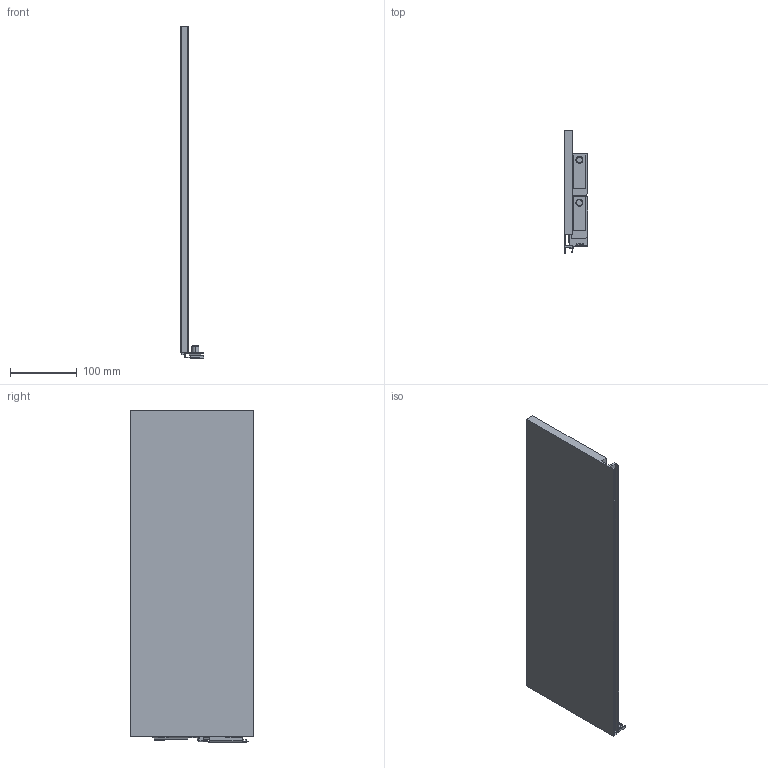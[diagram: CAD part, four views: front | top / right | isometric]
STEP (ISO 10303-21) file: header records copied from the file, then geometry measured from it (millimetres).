
FILE_DESCRIPTION (( 'STEP AP214' ), '1' );
FILE_NAME ('Vionaro_Alu-Zarge_H185_NL500_LI.STEP', '2014-07-10T09:03:34', ( '' ), ( '' ), 'SwSTEP 2.0', 'SolidWorks 2013', '' );
FILE_SCHEMA (( 'AUTOMOTIVE_DESIGN' ));
Length unit declared in the file: millimetre
Products named in the file (1): Vionaro_Alu-Zarge_H185_NL500_LI
Bounding box: 35.6 x 185 x 497.9 mm (x, y, z)
Volume: 1062113.3 mm3; surface area: 228501.4 mm2
Topology: 1 solids, 1 shells, 136 faces, 358 edges, 235 vertices
Faces by surface type: plane 96, cylinder 32, cone 8
Entity records: 4207 total; most frequent: CARTESIAN_POINT 736, ORIENTED_EDGE 716, DIRECTION 705, EDGE_CURVE 358, LINE 281, VECTOR 281, VERTEX_POINT 235, AXIS2_PLACEMENT_3D 212
